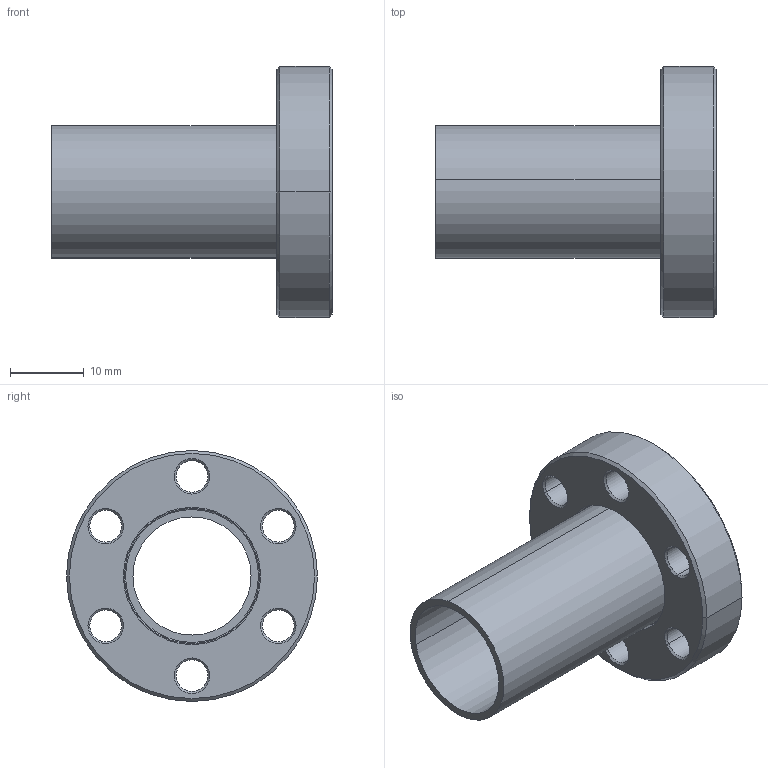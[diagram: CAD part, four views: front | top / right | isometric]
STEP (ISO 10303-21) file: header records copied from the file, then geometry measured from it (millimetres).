
FILE_DESCRIPTION((''),'2;1');
FILE_NAME('N:\Transfer\Berger Martin\Leybold\C15\83571.stp','2005-02-07T08:55:05',('VCRC_L'),(''),'Autodesk Inventor 9','Autodesk Inventor 9','');
FILE_SCHEMA(('AUTOMOTIVE_DESIGN { 1 0 10303 214 1 1 1 1 }'));
Length unit declared in the file: millimetre
Products named in the file (1): 83571
Bounding box: 38 x 34 x 34 mm (x, y, z)
Volume: 5974.9 mm3; surface area: 7280.8 mm2
Topology: 1 solids, 1 shells, 74 faces, 166 edges, 98 vertices
Faces by surface type: cone 36, cylinder 16, bspline 14, plane 6, torus 2
Entity records: 2355 total; most frequent: CARTESIAN_POINT 631, DIRECTION 390, ORIENTED_EDGE 332, EDGE_CURVE 166, AXIS2_PLACEMENT_3D 163, CIRCLE 102, VERTEX_POINT 98, EDGE_LOOP 92
